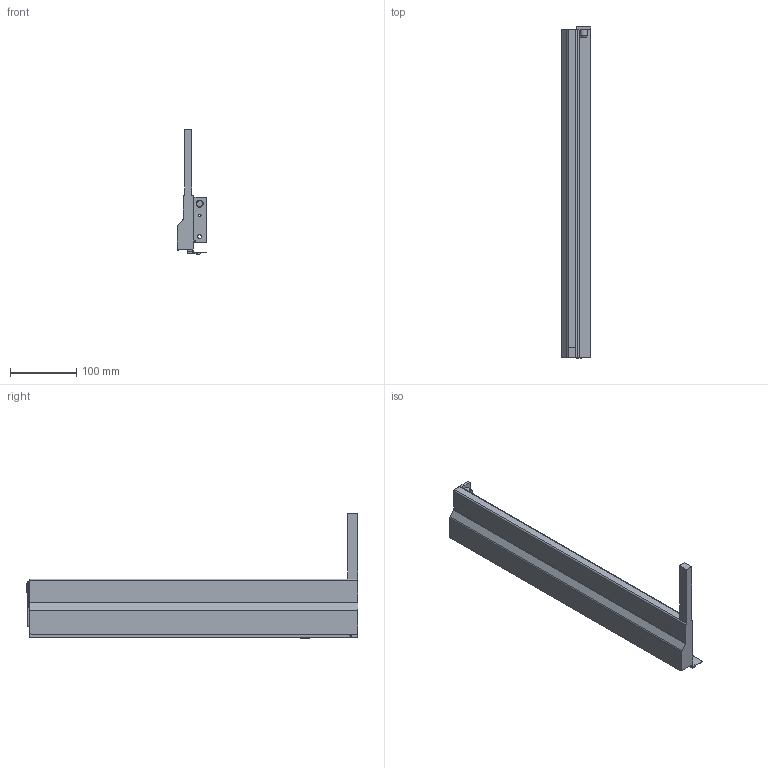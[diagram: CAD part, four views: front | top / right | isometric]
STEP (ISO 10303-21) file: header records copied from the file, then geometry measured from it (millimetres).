
FILE_DESCRIPTION (( 'STEP AP214' ), '1' );
FILE_NAME ('IMOS_NOVA-Pro_Crystal_Dekor-H90_CL_NL500_LI.step', '2010-09-28T09:47:19', ( 'Grass' ), ( '' ), 'SwSTEP 2.0', 'SolidWorks 2010', '' );
FILE_SCHEMA (( 'AUTOMOTIVE_DESIGN' ));
Length unit declared in the file: millimetre
Products named in the file (1): IMOS_NOVA-Pro_Crystal_Dekor-H90_CL_NL500_LI
Bounding box: 44.3 x 502.7 x 190.38 mm (x, y, z)
Volume: 459764.5 mm3; surface area: 178477.9 mm2
Topology: 1 solids, 1 shells, 94 faces, 256 edges, 169 vertices
Faces by surface type: plane 59, cylinder 30, cone 4, bspline 1
Entity records: 3009 total; most frequent: CARTESIAN_POINT 533, ORIENTED_EDGE 512, DIRECTION 506, EDGE_CURVE 256, LINE 190, VECTOR 190, VERTEX_POINT 169, AXIS2_PLACEMENT_3D 158
